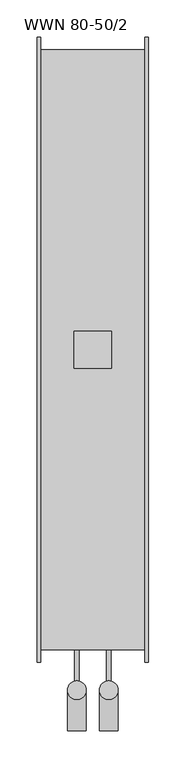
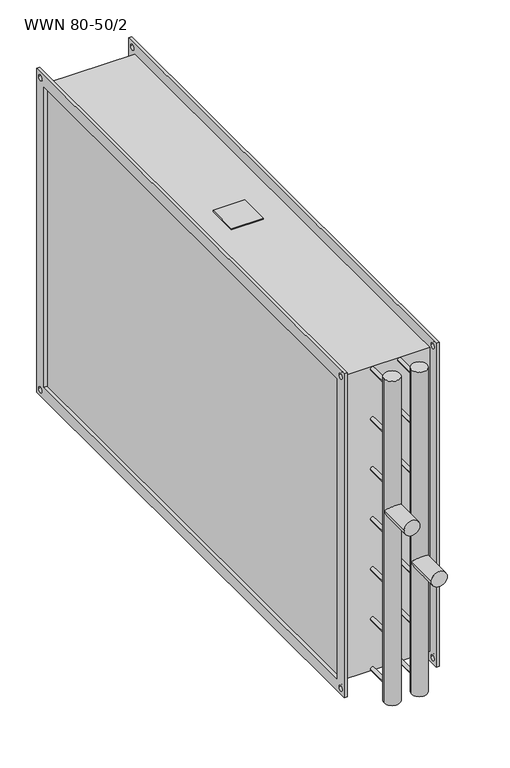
"""IFC4 building model written with IfcOpenShell, lengths in millimetres: proxy geometry, KORF_Нагреватель_Водяной_WWN : WWN 80-50/2."""

from ifc_helpers import new_model, si_unit, point, frame, frame_2d, origin, place, context, project, spatial, polyline, circle_curve, ellipse_curve, trimmed, segment, composite_curve, outline, extrude, source, transform, mapped, element, save
from ifc_brep_helpers import plane_surface, cylinder_surface, advanced_brep


def wwn_80_50_2_b14858ec(model_context):
    return source(origin(), model_context, "Body", "SolidModel", [
        extrude(outline(polyline([(50.0, -25.0), (50.0, 25.0), (100.0, 25.0), (100.0, -25.0), (50.0, -25.0)])), frame((0.0, 0.0, 253.0), z_axis=(0.0, 0.0, 1.0), x_axis=(1.0, 0.0, 0.0)), (0.0, 0.0, 1.0), 2.0),
        extrude(outline(polyline([(-420.0, 270.0), (420.0, 270.0), (420.0, -270.0), (-420.0, -270.0), (-420.0, 270.0)]), holes=[polyline([(-400.0, 250.0), (-400.0, -250.0), (400.0, -250.0), (400.0, 250.0), (-400.0, 250.0)]), composite_curve([segment(trimmed(circle_curve(frame_2d((410.0, 260.0)), 4.5), [point((405.5, 260.0))], [point((414.5, 260.0))], True, "CARTESIAN"), True, "CONTINUOUS"), segment(trimmed(circle_curve(frame_2d((410.0, 260.0)), 4.5), [point((414.5, 260.0))], [point((405.5, 260.0))], True, "CARTESIAN"), True, "CONTINUOUS")], self_intersect=False), composite_curve([segment(trimmed(circle_curve(frame_2d((-410.0, 260.0)), 4.5), [point((-414.5, 260.0))], [point((-405.5, 260.0))], True, "CARTESIAN"), True, "CONTINUOUS"), segment(trimmed(circle_curve(frame_2d((-410.0, 260.0)), 4.5), [point((-405.5, 260.0))], [point((-414.5, 260.0))], True, "CARTESIAN"), True, "CONTINUOUS")], self_intersect=False), composite_curve([segment(trimmed(circle_curve(frame_2d((-410.0, -260.0)), 4.5), [point((-414.5, -260.0))], [point((-405.5, -260.0))], True, "CARTESIAN"), True, "CONTINUOUS"), segment(trimmed(circle_curve(frame_2d((-410.0, -260.0)), 4.5), [point((-405.5, -260.0))], [point((-414.5, -260.0))], True, "CARTESIAN"), True, "CONTINUOUS")], self_intersect=False), composite_curve([segment(trimmed(circle_curve(frame_2d((410.0, -260.0)), 4.5), [point((405.5, -260.0))], [point((414.5, -260.0))], True, "CARTESIAN"), True, "CONTINUOUS"), segment(trimmed(circle_curve(frame_2d((410.0, -260.0)), 4.5), [point((414.5, -260.0))], [point((405.5, -260.0))], True, "CARTESIAN"), True, "CONTINUOUS")], self_intersect=False)]), frame((145.0, 0.0, 0.0), z_axis=(1.0, 0.0, 0.0), x_axis=(0.0, 1.0, 0.0)), (0.0, 0.0, 1.0), 5.0),
        extrude(outline(polyline([(-420.0, 270.0), (420.0, 270.0), (420.0, -270.0), (-420.0, -270.0), (-420.0, 270.0)]), holes=[polyline([(-400.0, 250.0), (-400.0, -250.0), (400.0, -250.0), (400.0, 250.0), (-400.0, 250.0)]), composite_curve([segment(trimmed(circle_curve(frame_2d((410.0, 260.0)), 4.5), [point((405.5, 260.0))], [point((414.5, 260.0))], True, "CARTESIAN"), True, "CONTINUOUS"), segment(trimmed(circle_curve(frame_2d((410.0, 260.0)), 4.5), [point((414.5, 260.0))], [point((405.5, 260.0))], True, "CARTESIAN"), True, "CONTINUOUS")], self_intersect=False), composite_curve([segment(trimmed(circle_curve(frame_2d((-410.0, 260.0)), 4.5), [point((-414.5, 260.0))], [point((-405.5, 260.0))], True, "CARTESIAN"), True, "CONTINUOUS"), segment(trimmed(circle_curve(frame_2d((-410.0, 260.0)), 4.5), [point((-405.5, 260.0))], [point((-414.5, 260.0))], True, "CARTESIAN"), True, "CONTINUOUS")], self_intersect=False), composite_curve([segment(trimmed(circle_curve(frame_2d((-410.0, -260.0)), 4.5), [point((-414.5, -260.0))], [point((-405.5, -260.0))], True, "CARTESIAN"), True, "CONTINUOUS"), segment(trimmed(circle_curve(frame_2d((-410.0, -260.0)), 4.5), [point((-405.5, -260.0))], [point((-414.5, -260.0))], True, "CARTESIAN"), True, "CONTINUOUS")], self_intersect=False), composite_curve([segment(trimmed(circle_curve(frame_2d((410.0, -260.0)), 4.5), [point((405.5, -260.0))], [point((414.5, -260.0))], True, "CARTESIAN"), True, "CONTINUOUS"), segment(trimmed(circle_curve(frame_2d((410.0, -260.0)), 4.5), [point((414.5, -260.0))], [point((405.5, -260.0))], True, "CARTESIAN"), True, "CONTINUOUS")], self_intersect=False)]), frame((0.0, 0.0, 0.0), z_axis=(1.0, 0.0, 0.0), x_axis=(0.0, 1.0, 0.0)), (0.0, 0.0, 1.0), 5.0),
        extrude(outline(polyline([(145.0, 403.0), (145.0, -403.0), (5.0, -403.0), (5.0, 403.0), (145.0, 403.0)])), frame((0.0, 0.0, -253.0), z_axis=(0.0, 0.0, 1.0), x_axis=(1.0, 0.0, 0.0)), (0.0, 0.0, 1.0), 506.0),
        advanced_brep(
        [(41.0, -512.0, 50.0), (66.0, -512.0, 50.0), (41.0, -457.5, 50.0), (66.0, -457.5, 50.0), (41.0, -457.5, 270.0), (66.0, -457.5, 270.0), (41.0, -457.5, -270.0), (66.0, -457.5, -270.0)],
        [
            (0, 1, circle_curve(frame((53.5, -512.0, 50.0), z_axis=(0.0, -1.0, 0.0), x_axis=(1.0, 0.0, 0.0)), 12.5)),
            (1, 0, circle_curve(frame((53.5, -512.0, 50.0), z_axis=(0.0, -1.0, 0.0), x_axis=(1.0, 0.0, 0.0)), 12.5)),
            (0, 2),
            (2, 3, ellipse_curve(frame((53.5, -457.5, 50.0), z_axis=(0.0, -0.7071067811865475, 0.7071067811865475), x_axis=(0.0, -0.7071067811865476, -0.7071067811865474)), 17.6776695, 12.5)),
            (3, 1),
            (3, 2, ellipse_curve(frame((53.5, -457.5, 50.0), z_axis=(0.0, -0.7071067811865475, -0.7071067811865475), x_axis=(0.0, -0.7071067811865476, 0.7071067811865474)), 17.6776695, 12.5)),
            (4, 5, circle_curve(frame((53.5, -457.5, 270.0), z_axis=(0.0, 0.0, 1.0), x_axis=(1.0, 0.0, 0.0)), 12.5)),
            (5, 4, circle_curve(frame((53.5, -457.5, 270.0), z_axis=(0.0, 0.0, 1.0), x_axis=(1.0, 0.0, 0.0)), 12.5)),
            (6, 7, circle_curve(frame((53.5, -457.5, -270.0), z_axis=(0.0, 0.0, -1.0), x_axis=(1.0, 0.0, 0.0)), 12.5)),
            (7, 6, circle_curve(frame((53.5, -457.5, -270.0), z_axis=(0.0, 0.0, -1.0), x_axis=(1.0, 0.0, 0.0)), 12.5)),
            (4, 2),
            (3, 5),
            (7, 3),
            (2, 6),
        ],
        [
            plane_surface(frame((66.0, -512.0, 50.0), z_axis=(0.0, -1.0, 0.0), x_axis=(0.0, 0.0, 1.0))),
            cylinder_surface(frame((53.5, -457.5, 50.0), z_axis=(0.0, -1.0, 0.0), x_axis=(1.0, 0.0, 0.0)), 12.5),
            plane_surface(frame((66.0, -457.5, 270.0), z_axis=(0.0, 0.0, 1.0), x_axis=(0.0, 1.0, 0.0))),
            plane_surface(frame((66.0, -457.5, -270.0), z_axis=(0.0, 0.0, -1.0), x_axis=(0.0, -1.0, 0.0))),
            cylinder_surface(frame((53.5, -457.5, -270.0), z_axis=(0.0, 0.0, 1.0), x_axis=(1.0, 0.0, 0.0)), 12.5),
        ],
        [
            (0, [[1, 2]]),
            (1, [[-1, 3, 4, 5]]),
            (1, [[-2, -5, 6, -3]]),
            (2, [[7, 8]]),
            (3, [[9, 10]]),
            (4, [[-7, 11, -6, 12]]),
            (4, [[-10, 13, -4, 14]]),
            (4, [[-8, -12, -13, -9, -14, -11]]),
        ],
    ),
        advanced_brep(
        [(84.0, -512.0, -50.0), (109.0, -512.0, -50.0), (84.0, -457.5, -50.0), (109.0, -457.5, -50.0), (84.0, -457.5, 270.0), (109.0, -457.5, 270.0), (84.0, -457.5, -270.0), (109.0, -457.5, -270.0)],
        [
            (0, 1, circle_curve(frame((96.5, -512.0, -50.0), z_axis=(0.0, -1.0, 0.0), x_axis=(1.0, 0.0, 0.0)), 12.5)),
            (1, 0, circle_curve(frame((96.5, -512.0, -50.0), z_axis=(0.0, -1.0, 0.0), x_axis=(1.0, 0.0, 0.0)), 12.5)),
            (0, 2),
            (2, 3, ellipse_curve(frame((96.5, -457.5, -50.0), z_axis=(0.0, -0.7071067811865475, 0.7071067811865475), x_axis=(0.0, -0.7071067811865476, -0.7071067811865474)), 17.6776695, 12.5)),
            (3, 1),
            (3, 2, ellipse_curve(frame((96.5, -457.5, -50.0), z_axis=(0.0, -0.7071067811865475, -0.7071067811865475), x_axis=(0.0, -0.7071067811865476, 0.7071067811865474)), 17.6776695, 12.5)),
            (4, 5, circle_curve(frame((96.5, -457.5, 270.0), z_axis=(0.0, 0.0, 1.0), x_axis=(1.0, 0.0, 0.0)), 12.5)),
            (5, 4, circle_curve(frame((96.5, -457.5, 270.0), z_axis=(0.0, 0.0, 1.0), x_axis=(1.0, 0.0, 0.0)), 12.5)),
            (6, 7, circle_curve(frame((96.5, -457.5, -270.0), z_axis=(0.0, 0.0, -1.0), x_axis=(1.0, 0.0, 0.0)), 12.5)),
            (7, 6, circle_curve(frame((96.5, -457.5, -270.0), z_axis=(0.0, 0.0, -1.0), x_axis=(1.0, 0.0, 0.0)), 12.5)),
            (4, 2),
            (3, 5),
            (7, 3),
            (2, 6),
        ],
        [
            plane_surface(frame((66.0, -512.0, 50.0), z_axis=(0.0, -1.0, 0.0), x_axis=(0.0, 0.0, 1.0))),
            cylinder_surface(frame((96.5, 0.0, -50.0), z_axis=(0.0, -1.0, 0.0), x_axis=(1.0, 0.0, 0.0)), 12.5),
            plane_surface(frame((66.0, -457.5, 270.0), z_axis=(0.0, 0.0, 1.0), x_axis=(0.0, 1.0, 0.0))),
            plane_surface(frame((66.0, -457.5, -270.0), z_axis=(0.0, 0.0, -1.0), x_axis=(0.0, -1.0, 0.0))),
            cylinder_surface(frame((96.5, -457.5, 0.0), z_axis=(0.0, 0.0, 1.0), x_axis=(1.0, 0.0, 0.0)), 12.5),
        ],
        [
            (0, [[1, 2]]),
            (1, [[-1, 3, 4, 5]]),
            (1, [[-2, -5, 6, -3]]),
            (2, [[7, 8]]),
            (3, [[9, 10]]),
            (4, [[-7, 11, -6, 12]]),
            (4, [[-10, 13, -4, 14]]),
            (4, [[-8, -12, -13, -9, -14, -11]]),
        ],
    ),
        extrude(outline(composite_curve([segment(trimmed(circle_curve(frame_2d((250.0, 53.5)), 3.0), [point((250.0, 50.5))], [point((250.0, 56.5))], False, "CARTESIAN"), True, "CONTINUOUS"), segment(trimmed(circle_curve(frame_2d((250.0, 53.5)), 3.0), [point((250.0, 56.5))], [point((250.0, 50.5))], False, "CARTESIAN"), True, "CONTINUOUS")], self_intersect=False)), frame((0.0, -457.5, 0.0), z_axis=(0.0, 1.0, 0.0), x_axis=(0.0, 0.0, 1.0)), (0.0, 0.0, 1.0), 54.5),
        extrude(outline(composite_curve([segment(trimmed(circle_curve(frame_2d((166.6666667, 53.5)), 3.0), [point((166.6666667, 50.5))], [point((166.6666667, 56.5))], False, "CARTESIAN"), True, "CONTINUOUS"), segment(trimmed(circle_curve(frame_2d((166.6666667, 53.5)), 3.0), [point((166.6666667, 56.5))], [point((166.6666667, 50.5))], False, "CARTESIAN"), True, "CONTINUOUS")], self_intersect=False)), frame((0.0, -457.5, 0.0), z_axis=(0.0, 1.0, 0.0), x_axis=(0.0, 0.0, 1.0)), (0.0, 0.0, 1.0), 54.5),
        extrude(outline(composite_curve([segment(trimmed(circle_curve(frame_2d((83.3333333, 53.5)), 3.0), [point((83.3333333, 50.5))], [point((83.3333333, 56.5))], False, "CARTESIAN"), True, "CONTINUOUS"), segment(trimmed(circle_curve(frame_2d((83.3333333, 53.5)), 3.0), [point((83.3333333, 56.5))], [point((83.3333333, 50.5))], False, "CARTESIAN"), True, "CONTINUOUS")], self_intersect=False)), frame((0.0, -457.5, 0.0), z_axis=(0.0, 1.0, 0.0), x_axis=(0.0, 0.0, 1.0)), (0.0, 0.0, 1.0), 54.5),
        extrude(outline(composite_curve([segment(trimmed(circle_curve(frame_2d((0.0, 53.5)), 3.0), [point((0.0, 50.5))], [point((0.0, 56.5))], False, "CARTESIAN"), True, "CONTINUOUS"), segment(trimmed(circle_curve(frame_2d((0.0, 53.5)), 3.0), [point((0.0, 56.5))], [point((0.0, 50.5))], False, "CARTESIAN"), True, "CONTINUOUS")], self_intersect=False)), frame((0.0, -457.5, 0.0), z_axis=(0.0, 1.0, 0.0), x_axis=(0.0, 0.0, 1.0)), (0.0, 0.0, 1.0), 54.5),
        extrude(outline(composite_curve([segment(trimmed(circle_curve(frame_2d((-83.3333333, 53.5)), 3.0), [point((-83.3333333, 50.5))], [point((-83.3333333, 56.5))], False, "CARTESIAN"), True, "CONTINUOUS"), segment(trimmed(circle_curve(frame_2d((-83.3333333, 53.5)), 3.0), [point((-83.3333333, 56.5))], [point((-83.3333333, 50.5))], False, "CARTESIAN"), True, "CONTINUOUS")], self_intersect=False)), frame((0.0, -457.5, 0.0), z_axis=(0.0, 1.0, 0.0), x_axis=(0.0, 0.0, 1.0)), (0.0, 0.0, 1.0), 54.5),
        extrude(outline(composite_curve([segment(trimmed(circle_curve(frame_2d((-166.6666667, 53.5)), 3.0), [point((-166.6666667, 50.5))], [point((-166.6666667, 56.5))], False, "CARTESIAN"), True, "CONTINUOUS"), segment(trimmed(circle_curve(frame_2d((-166.6666667, 53.5)), 3.0), [point((-166.6666667, 56.5))], [point((-166.6666667, 50.5))], False, "CARTESIAN"), True, "CONTINUOUS")], self_intersect=False)), frame((0.0, -457.5, 0.0), z_axis=(0.0, 1.0, 0.0), x_axis=(0.0, 0.0, 1.0)), (0.0, 0.0, 1.0), 54.5),
        extrude(outline(composite_curve([segment(trimmed(circle_curve(frame_2d((-166.6666667, 96.5)), 3.0), [point((-166.6666667, 93.5))], [point((-166.6666667, 99.5))], False, "CARTESIAN"), True, "CONTINUOUS"), segment(trimmed(circle_curve(frame_2d((-166.6666667, 96.5)), 3.0), [point((-166.6666667, 99.5))], [point((-166.6666667, 93.5))], False, "CARTESIAN"), True, "CONTINUOUS")], self_intersect=False)), frame((0.0, -457.5, 0.0), z_axis=(0.0, 1.0, 0.0), x_axis=(0.0, 0.0, 1.0)), (0.0, 0.0, 1.0), 54.5),
        extrude(outline(composite_curve([segment(trimmed(circle_curve(frame_2d((-83.3333333, 96.5)), 3.0), [point((-83.3333333, 93.5))], [point((-83.3333333, 99.5))], False, "CARTESIAN"), True, "CONTINUOUS"), segment(trimmed(circle_curve(frame_2d((-83.3333333, 96.5)), 3.0), [point((-83.3333333, 99.5))], [point((-83.3333333, 93.5))], False, "CARTESIAN"), True, "CONTINUOUS")], self_intersect=False)), frame((0.0, -457.5, 0.0), z_axis=(0.0, 1.0, 0.0), x_axis=(0.0, 0.0, 1.0)), (0.0, 0.0, 1.0), 54.5),
        extrude(outline(composite_curve([segment(trimmed(circle_curve(frame_2d((0.0, 96.5)), 3.0), [point((0.0, 93.5))], [point((0.0, 99.5))], False, "CARTESIAN"), True, "CONTINUOUS"), segment(trimmed(circle_curve(frame_2d((0.0, 96.5)), 3.0), [point((0.0, 99.5))], [point((0.0, 93.5))], False, "CARTESIAN"), True, "CONTINUOUS")], self_intersect=False)), frame((0.0, -457.5, 0.0), z_axis=(0.0, 1.0, 0.0), x_axis=(0.0, 0.0, 1.0)), (0.0, 0.0, 1.0), 54.5),
        extrude(outline(composite_curve([segment(trimmed(circle_curve(frame_2d((83.3333333, 96.5)), 3.0), [point((83.3333333, 93.5))], [point((83.3333333, 99.5))], False, "CARTESIAN"), True, "CONTINUOUS"), segment(trimmed(circle_curve(frame_2d((83.3333333, 96.5)), 3.0), [point((83.3333333, 99.5))], [point((83.3333333, 93.5))], False, "CARTESIAN"), True, "CONTINUOUS")], self_intersect=False)), frame((0.0, -457.5, 0.0), z_axis=(0.0, 1.0, 0.0), x_axis=(0.0, 0.0, 1.0)), (0.0, 0.0, 1.0), 54.5),
        extrude(outline(composite_curve([segment(trimmed(circle_curve(frame_2d((166.6666667, 96.5)), 3.0), [point((166.6666667, 93.5))], [point((166.6666667, 99.5))], False, "CARTESIAN"), True, "CONTINUOUS"), segment(trimmed(circle_curve(frame_2d((166.6666667, 96.5)), 3.0), [point((166.6666667, 99.5))], [point((166.6666667, 93.5))], False, "CARTESIAN"), True, "CONTINUOUS")], self_intersect=False)), frame((0.0, -457.5, 0.0), z_axis=(0.0, 1.0, 0.0), x_axis=(0.0, 0.0, 1.0)), (0.0, 0.0, 1.0), 54.5),
        extrude(outline(composite_curve([segment(trimmed(circle_curve(frame_2d((250.0, 96.5)), 3.0), [point((250.0, 93.5))], [point((250.0, 99.5))], False, "CARTESIAN"), True, "CONTINUOUS"), segment(trimmed(circle_curve(frame_2d((250.0, 96.5)), 3.0), [point((250.0, 99.5))], [point((250.0, 93.5))], False, "CARTESIAN"), True, "CONTINUOUS")], self_intersect=False)), frame((0.0, -457.5, 0.0), z_axis=(0.0, 1.0, 0.0), x_axis=(0.0, 0.0, 1.0)), (0.0, 0.0, 1.0), 54.5),
        extrude(outline(composite_curve([segment(trimmed(circle_curve(frame_2d((-250.0, 53.5)), 3.0), [point((-250.0, 50.5))], [point((-250.0, 56.5))], False, "CARTESIAN"), True, "CONTINUOUS"), segment(trimmed(circle_curve(frame_2d((-250.0, 53.5)), 3.0), [point((-250.0, 56.5))], [point((-250.0, 50.5))], False, "CARTESIAN"), True, "CONTINUOUS")], self_intersect=False)), frame((0.0, -457.5, 0.0), z_axis=(0.0, 1.0, 0.0), x_axis=(0.0, 0.0, 1.0)), (0.0, 0.0, 1.0), 54.5),
        extrude(outline(composite_curve([segment(trimmed(circle_curve(frame_2d((-250.0, 96.5)), 3.0), [point((-250.0, 93.5))], [point((-250.0, 99.5))], False, "CARTESIAN"), True, "CONTINUOUS"), segment(trimmed(circle_curve(frame_2d((-250.0, 96.5)), 3.0), [point((-250.0, 99.5))], [point((-250.0, 93.5))], False, "CARTESIAN"), True, "CONTINUOUS")], self_intersect=False)), frame((0.0, -457.5, 0.0), z_axis=(0.0, 1.0, 0.0), x_axis=(0.0, 0.0, 1.0)), (0.0, 0.0, 1.0), 54.5),
    ])


if __name__ == "__main__":
    model = new_model("IFC4")
    model_context = context("Model", 3, world=origin())
    ifc_project = project(units=[si_unit("LENGTHUNIT", "METRE", prefix="MILLI")], contexts=[model_context])
    site = spatial("IfcSite", under=ifc_project)
    building = spatial("IfcBuilding", under=site)
    placement = place(None, origin())
    wwn_80_50_2_shape = wwn_80_50_2_b14858ec(model_context)
    element("IfcBuildingElementProxy", 1, Name="KORF_Нагреватель_Водяной_WWN : WWN 80-50/2", ObjectType="KORF_Нагреватель_Водяной_WWN : WWN 80-50/2", at=placement, inside=building, context=model_context, shape_type="MappedRepresentation", body=[
        mapped(wwn_80_50_2_shape, transform((0.0, 0.0, 0.0), x_axis=(1.0, 0.0, 0.0), y_axis=(0.0, 1.0, 0.0), z_axis=(0.0, 0.0, 1.0))),
    ])
    save(model, "model.ifc")
